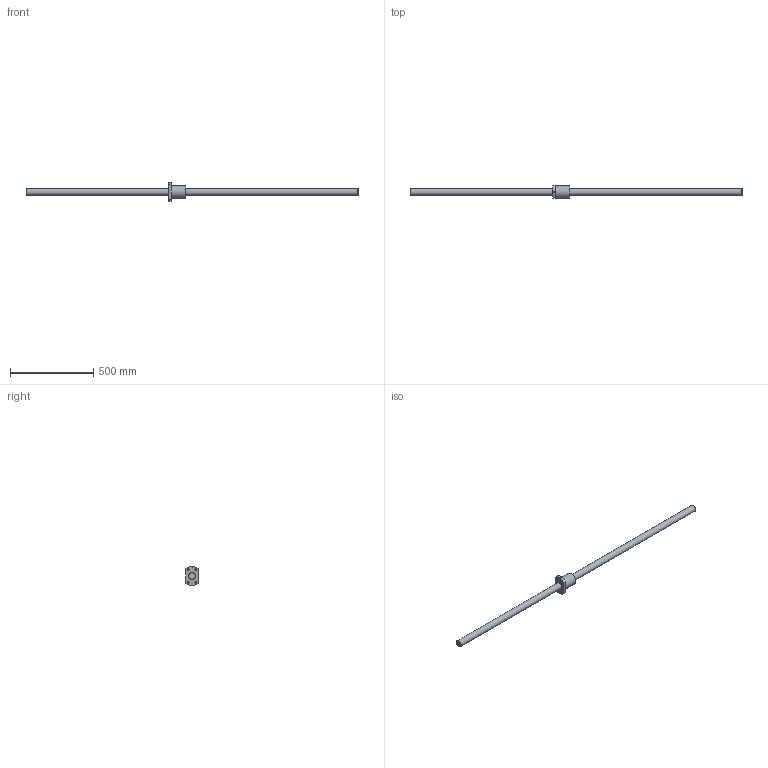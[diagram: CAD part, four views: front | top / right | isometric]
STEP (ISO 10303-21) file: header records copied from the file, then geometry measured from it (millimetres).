
FILE_DESCRIPTION((''),'2;1');
FILE_NAME('D:\製品 (図面)\カタログ用3D\ネジ関連\STEP形式\RBSDA\RBSDA4040-2000.stp','2010-06-02T14:41:01',('Tsuchiya'),(''),'Autodesk Inventor 10','Autodesk Inventor 10','');
FILE_SCHEMA(('AUTOMOTIVE_DESIGN { 1 0 10303 214 1 1 1 1 }'));
Length unit declared in the file: millimetre
Products named in the file (3): RBSDA4040-2000; RBSDA4040-20001; RBSDA4040-20002
Assembly tree (2 placements, depth 2):
  RBSDA4040-2000
    RBSDA4040-20001
    RBSDA4040-20002
Bounding box: 2000 x 73 x 114 mm (x, y, z)
Volume: 2867527.7 mm3; surface area: 306900.7 mm2
Topology: 2 solids, 2 shells, 25 faces, 63 edges, 42 vertices
Faces by surface type: cylinder 9, plane 8, cone 7, bspline 1
Full cylindrical faces by diameter (mm): 11 x4, 40 x2, 73 x1
Entity records: 885 total; most frequent: CARTESIAN_POINT 270, DIRECTION 120, ORIENTED_EDGE 94, AXIS2_PLACEMENT_3D 55, EDGE_LOOP 48, EDGE_CURVE 47, VERTEX_POINT 37, CIRCLE 26
